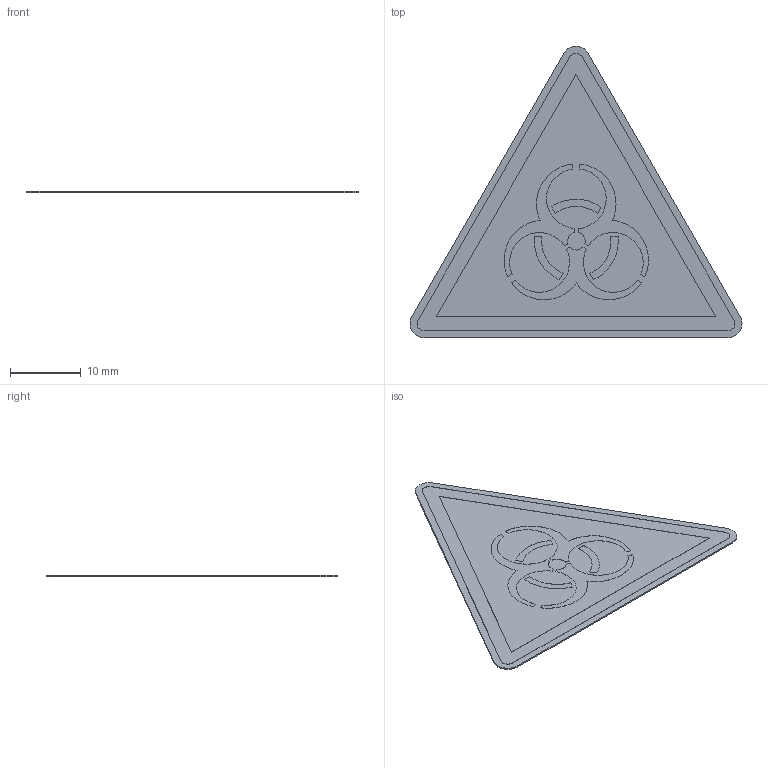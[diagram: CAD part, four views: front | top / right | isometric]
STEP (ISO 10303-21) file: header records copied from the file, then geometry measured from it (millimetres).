
FILE_DESCRIPTION (( 'STEP AP214' ), '1' );
FILE_NAME ('W009_Warnung vor Biogefährdung.STEP', '2022-02-22T08:12:10', ( '' ), ( '' ), 'SwSTEP 2.0', 'SolidWorks 2021', '' );
FILE_SCHEMA (( 'AUTOMOTIVE_DESIGN' ));
Length unit declared in the file: millimetre
Products named in the file (1): W009_Warnung vor Biogefährdung
Bounding box: 47.07 x 41.3 x 0.22 mm (x, y, z)
Volume: 221.2 mm3; surface area: 2184.1 mm2
Topology: 1 solids, 1 shells, 67 faces, 171 edges, 114 vertices
Faces by surface type: plane 37, bspline 22, cylinder 8
Entity records: 3082 total; most frequent: CARTESIAN_POINT 927, ORIENTED_EDGE 342, DIRECTION 235, EDGE_CURVE 171, VERTEX_POINT 114, LINE 111, VECTOR 111, EDGE_LOOP 75
